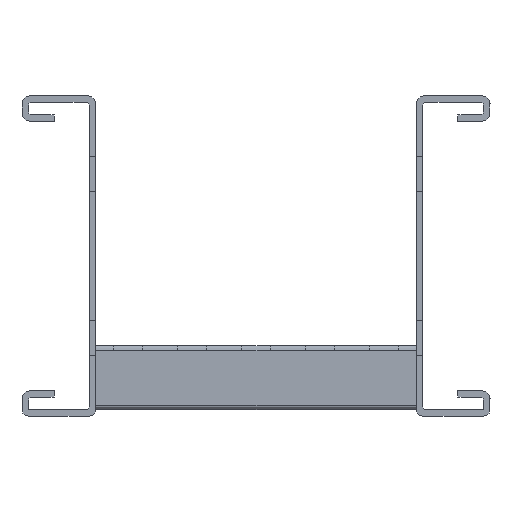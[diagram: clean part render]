
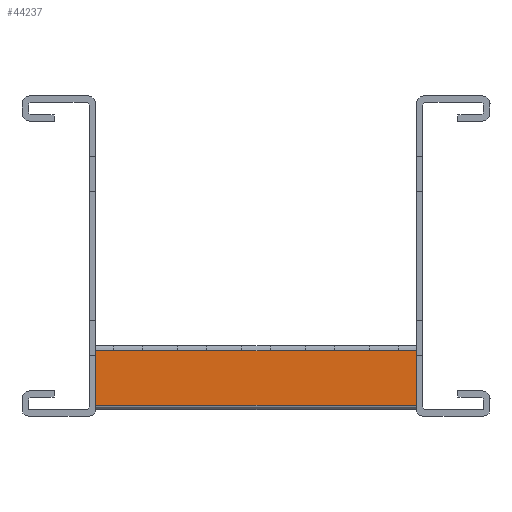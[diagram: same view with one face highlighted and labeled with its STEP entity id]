
A CAD part, left-side view. The second image highlights one B-rep face of the part: STEP entity #44237.
In plain terms, the highlighted planar face has unit normal (-1, 0, 0) as drawn and (0, 1, 0) by its records, which use the part's own axes.
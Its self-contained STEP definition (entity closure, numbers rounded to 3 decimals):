
#3123=FACE_OUTER_BOUND('',#6111,.T.);
#6111=EDGE_LOOP('',(#40164,#40165,#40166,#40167));
#12101=LINE('',#68446,#18061);
#12107=LINE('',#68463,#18067);
#12148=LINE('',#68588,#18108);
#12149=LINE('',#68590,#18109);
#18061=VECTOR('',#56336,304.8);
#18067=VECTOR('',#56348,304.8);
#18108=VECTOR('',#56457,304.8);
#18109=VECTOR('',#56460,304.8);
#22096=VERTEX_POINT('',#68443);
#22097=VERTEX_POINT('',#68445);
#22104=VERTEX_POINT('',#68460);
#22105=VERTEX_POINT('',#68462);
#28096=EDGE_CURVE('',#22096,#22097,#12101,.T.);
#28104=EDGE_CURVE('',#22104,#22105,#12107,.T.);
#28168=EDGE_CURVE('',#22105,#22096,#12148,.T.);
#28169=EDGE_CURVE('',#22104,#22097,#12149,.T.);
#40164=ORIENTED_EDGE('',*,*,#28096,.F.);
#40165=ORIENTED_EDGE('',*,*,#28168,.F.);
#40166=ORIENTED_EDGE('',*,*,#28104,.F.);
#40167=ORIENTED_EDGE('',*,*,#28169,.T.);
#42230=PLANE('',#46338);
#44237=ADVANCED_FACE('',(#3123),#42230,.T.);
#46338=AXIS2_PLACEMENT_3D('',#68589,#56458,#56459);
#56336=DIRECTION('',(0.,0.,-1.));
#56348=DIRECTION('',(0.,0.,1.));
#56457=DIRECTION('',(-1.,0.,0.));
#56458=DIRECTION('center_axis',(0.,1.,0.));
#56459=DIRECTION('ref_axis',(1.,0.,0.));
#56460=DIRECTION('',(-1.,0.,0.));
#68443=CARTESIAN_POINT('',(0.,20.,8.5));
#68445=CARTESIAN_POINT('',(0.,20.,-8.5));
#68446=CARTESIAN_POINT('',(0.,20.,8.5));
#68460=CARTESIAN_POINT('',(100.,20.,-8.5));
#68462=CARTESIAN_POINT('',(100.,20.,8.5));
#68463=CARTESIAN_POINT('',(100.,20.,-8.5));
#68588=CARTESIAN_POINT('',(0.,20.,8.5));
#68589=CARTESIAN_POINT('Origin',(0.,20.,8.5));
#68590=CARTESIAN_POINT('',(0.,20.,-8.5));
